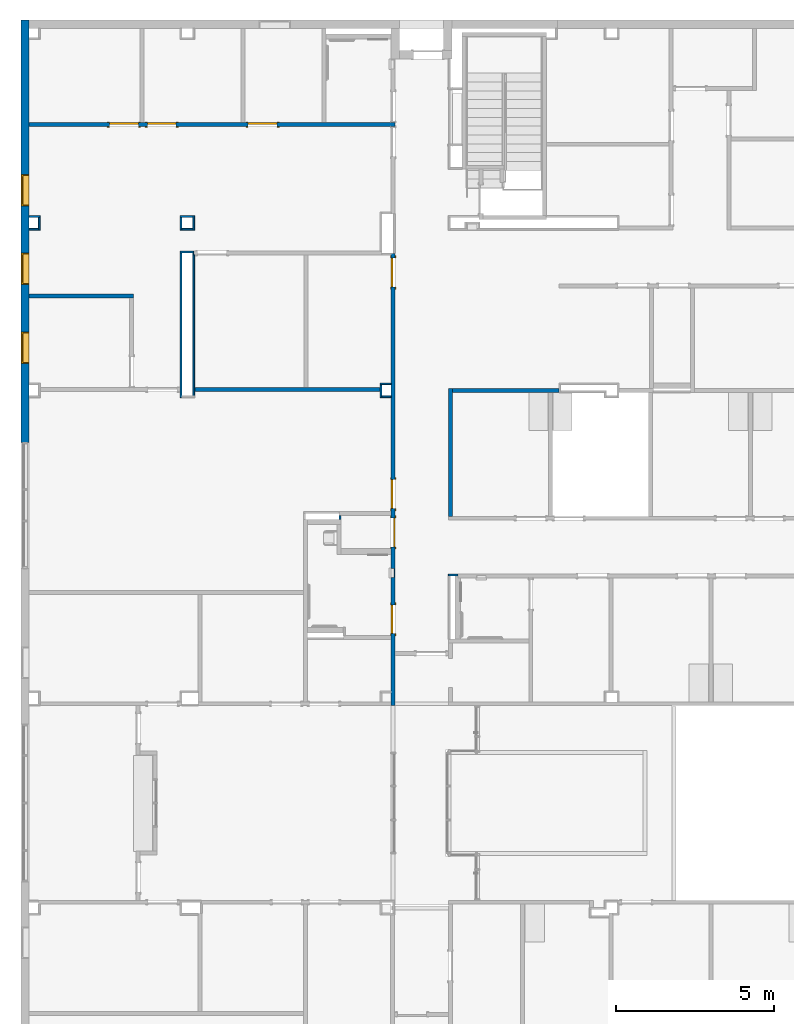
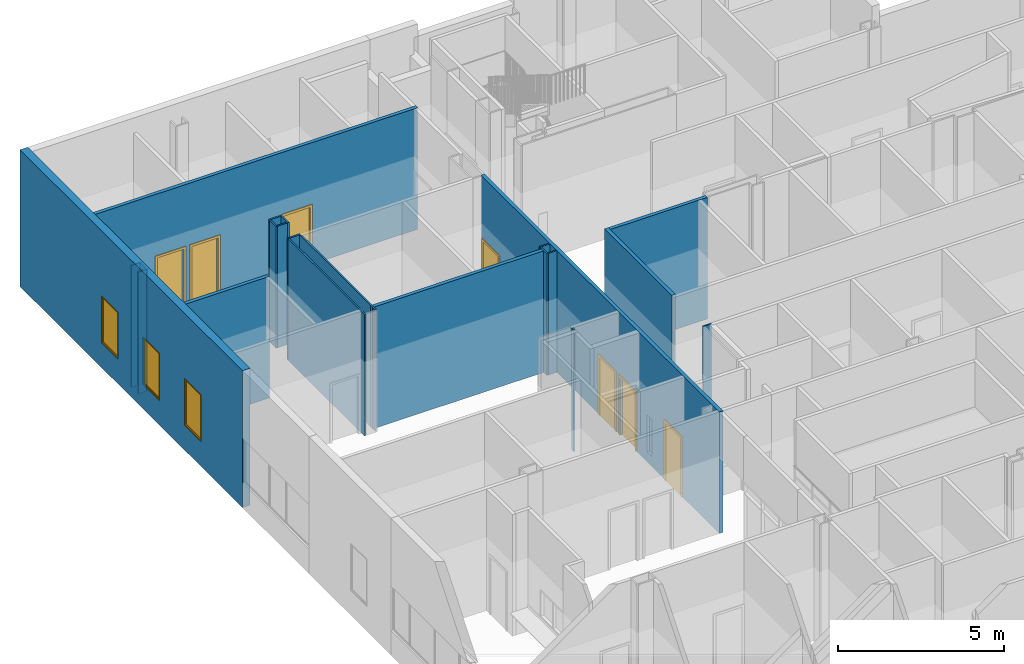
# One storey, part 31 of 87: 22 walls, 7 doors, 3 windows, 11 openings.
"""IFC2X3 building model written with IfcOpenShell, lengths in metres."""

from ifc_helpers import new_model, entity, si_unit, converted_unit, frame, frame_2d, origin, origin_2d_with_axis, place, context, project, spatial, polyline, rectangle, outline, extrude, source, transform, mapped, material, layer, layer_set, layer_usage, type_object, type_shapes, element, fill, save


model = new_model("IFC2X3")

# Units and contexts
model_context = context("Model", 3, precision=1e-09, world=origin())
plan_context = context("Plan", 3, precision=1e-09, world=origin())
ifc_project = project(units=[si_unit("LENGTHUNIT", "METRE"), si_unit("AREAUNIT", "SQUARE_METRE"), si_unit("VOLUMEUNIT", "CUBIC_METRE"), converted_unit("PLANEANGLEUNIT", "DEGREE", entity("IfcRatioMeasure", 0.01745329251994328), si_unit("PLANEANGLEUNIT", "RADIAN"), dimensions=[0, 0, 0, 0, 0, 0, 0]), si_unit("TIMEUNIT", "SECOND")], contexts=[model_context, plan_context])

# Site, building, storey
site_placement = place(None, origin())
site = spatial("IfcSite", under=ifc_project, at=site_placement, Name="Default", CompositionType="ELEMENT")
building_placement = place(site_placement, origin())
building = spatial("IfcBuilding", under=site, at=building_placement, CompositionType="ELEMENT")
storey_placement = place(building_placement, origin())
storey = spatial("IfcBuildingStorey", under=building, at=storey_placement, Name="First Floor", CompositionType="ELEMENT", Elevation=-3.531500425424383e-13)

# Wall, openings, doors
ifc_material_1 = material(Name="Plasterboard")
ifc_layer_1 = layer(ifc_material_1, 0.016)
ifc_material_2 = material(Name="Metal - Stud Layer")
ifc_layer_2 = layer(ifc_material_2, 0.092)
ifc_layer_3 = layer(ifc_material_1, 0.016)
ifc_layer_set_1 = layer_set([ifc_layer_1, ifc_layer_2, ifc_layer_3], Name="Basic Wall:Interior - Partition (92mm Stud)")
ifc_layer_usage_1 = layer_usage(ifc_layer_set_1, "AXIS2", "NEGATIVE", 0.062)
wall_1_placement = place(storey_placement, frame((-52.01300000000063, 53.20199999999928, 0.0)))
wall_1 = element("IfcWallStandardCase", 1, at=wall_1_placement, inside=storey, material=ifc_layer_usage_1, Name="Basic Wall:Interior - Partition (92mm Stud)", ObjectType="Basic Wall:Interior - Partition (92mm Stud)", context=model_context, shape_type="SweptSolid", body=[
    extrude(rectangle(XDim=11.60000000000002, YDim=0.1240000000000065, at=frame_2d((5.800000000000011, 0.0), x_axis=(-1.0, 0.0))), origin(), (0.0, 0.0, 1.0), 4.46800000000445),
])
opening_1_placement = place(wall_1_placement, frame((2.543999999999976, -0.06200000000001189, 0.0)))
opening_1 = element("IfcOpeningElement", 2, at=opening_1_placement, cuts=wall_1, Name="M_Single-Flush:0915 x 2134mm:0915 x 2134mm:1", ObjectType="Opening", context=model_context, shape_type="SweptSolid", body=[
    extrude(rectangle(XDim=0.9149999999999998, YDim=2.134, at=frame_2d((1.067, 0.4575), x_axis=(0.0, 1.0))), frame((0.0, 0.0, 0.0), z_axis=(0.0, 1.0, 0.0), x_axis=(0.0, 0.0, 1.0)), (0.0, 0.0, 1.0), 0.124),
])
opening_2_placement = place(wall_1_placement, frame((3.742999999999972, -0.06200000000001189, 0.0)))
opening_2 = element("IfcOpeningElement", 3, at=opening_2_placement, cuts=wall_1, Name="M_Single-Flush:0915 x 2134mm:0915 x 2134mm:1", ObjectType="Opening", context=model_context, shape_type="SweptSolid", body=[
    extrude(rectangle(XDim=0.9149999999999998, YDim=2.134, at=frame_2d((1.067, 0.4574999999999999), x_axis=(0.0, -1.0))), frame((0.0, 0.0, 0.0), z_axis=(0.0, 1.0, 0.0), x_axis=(0.0, 0.0, 1.0)), (0.0, 0.0, 1.0), 0.124),
])
opening_3_placement = place(wall_1_placement, frame((6.942999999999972, -0.06200000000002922, 0.0)))
opening_3 = element("IfcOpeningElement", 4, at=opening_3_placement, cuts=wall_1, Name="M_Single-Flush:0915 x 2134mm:0915 x 2134mm:1", ObjectType="Opening", context=model_context, shape_type="SweptSolid", body=[
    extrude(rectangle(XDim=0.9149999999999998, YDim=2.134, at=frame_2d((1.067, 0.4574999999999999), x_axis=(0.0, -1.0))), frame((0.0, 0.0, 0.0), z_axis=(0.0, 1.0, 0.0), x_axis=(0.0, 0.0, 1.0)), (0.0, 0.0, 1.0), 0.124),
])
door_style_1 = type_object("IfcDoorStyle", Name="0915 x 2134mm", ConstructionType="NOTDEFINED", OperationType="SINGLE_SWING_RIGHT", ParameterTakesPrecedence=False, Sizeable=False)
shared_shape_1 = source(origin(), model_context, "Body", "SweptSolid", [
    extrude(outline(polyline([(-0.5335, -1.123999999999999), (0.5334999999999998, -1.123999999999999), (0.5334999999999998, 1.086), (0.4574999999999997, 1.086), (0.4574999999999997, -1.048000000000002), (-0.4574999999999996, -1.048000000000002), (-0.4574999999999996, 1.086), (-0.5335, 1.086), (-0.5335, -1.123999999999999)])), frame((0.4575000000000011, 0.1239999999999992, 1.086), z_axis=(0.0, 1.0, 0.0), x_axis=(1.0, 0.0, 0.0)), (0.0, 0.0, 1.0), 0.02499999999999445),
    extrude(outline(polyline([(-1.123999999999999, -0.5334999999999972), (1.085999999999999, -0.5334999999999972), (1.085999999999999, -0.4575000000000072), (-1.048, -0.4575000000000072), (-1.048, 0.4575000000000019), (1.085999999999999, 0.4575000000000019), (1.085999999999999, 0.5335000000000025), (-1.123999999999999, 0.5335000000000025), (-1.123999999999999, -0.5334999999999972)])), frame((0.4575000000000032, -0.02500000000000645, 1.085999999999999), z_axis=(0.0, 1.0, 0.0), x_axis=(0.0, 0.0, -1.0)), (0.0, 0.0, 1.0), 0.02500000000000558),
    extrude(rectangle(XDim=0.051, YDim=0.9149999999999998, at=origin_2d_with_axis()), frame((0.4575000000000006, 0.09849999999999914, 0.0), z_axis=(0.0, 0.0, 1.0), x_axis=(0.0, 1.0, 0.0)), (0.0, 0.0, 1.0), 2.133999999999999),
])
type_shapes(door_style_1, [shared_shape_1])
door_1_placement = place(opening_1_placement, origin())
door_1 = element("IfcDoor", 5, at=door_1_placement, inside=storey, type_object=door_style_1, Name="M_Single-Flush:0915 x 2134mm:0915 x 2134mm", ObjectType="0915 x 2134mm", OverallHeight=2.134, OverallWidth=0.9149999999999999, context=model_context, shape_type="MappedRepresentation", body=[
    mapped(shared_shape_1, transform((0.0, 0.0, 0.0), scale=1.0)),
])
fill(opening_1, door_1)
door_style_2 = type_object("IfcDoorStyle", Name="0915 x 2134mm", ConstructionType="NOTDEFINED", OperationType="SINGLE_SWING_LEFT", ParameterTakesPrecedence=False, Sizeable=False)
shared_shape_2 = source(origin(), model_context, "Body", "SweptSolid", [
    extrude(outline(polyline([(-0.5335, -1.123999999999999), (0.5334999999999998, -1.123999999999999), (0.5334999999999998, 1.086), (0.4574999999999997, 1.086), (0.4574999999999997, -1.048000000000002), (-0.4574999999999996, -1.048000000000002), (-0.4574999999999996, 1.086), (-0.5335, 1.086), (-0.5335, -1.123999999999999)])), frame((0.4575000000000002, 0.1489999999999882, 1.086), z_axis=(0.0, -1.0, 0.0), x_axis=(-1.0, 0.0, 0.0)), (0.0, 0.0, 1.0), 0.02499999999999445),
    extrude(outline(polyline([(-1.123999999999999, -0.5334999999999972), (1.085999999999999, -0.5334999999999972), (1.085999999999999, -0.4575000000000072), (-1.048, -0.4575000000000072), (-1.048, 0.4575000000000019), (1.085999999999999, 0.4575000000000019), (1.085999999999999, 0.5335000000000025), (-1.123999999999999, 0.5335000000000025), (-1.123999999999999, -0.5334999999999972)])), frame((0.4574999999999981, 0.0, 1.085999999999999), z_axis=(0.0, -1.0, 0.0), x_axis=(0.0, 0.0, -1.0)), (0.0, 0.0, 1.0), 0.02500000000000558),
    extrude(rectangle(XDim=0.9149999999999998, YDim=0.051, at=origin_2d_with_axis()), frame((0.4575000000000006, 0.09849999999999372, 0.0)), (0.0, 0.0, 1.0), 2.133999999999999),
])
type_shapes(door_style_2, [shared_shape_2])
door_2_placement = place(opening_2_placement, origin())
door_2 = element("IfcDoor", 6, at=door_2_placement, inside=storey, type_object=door_style_2, Name="M_Single-Flush:0915 x 2134mm:0915 x 2134mm", ObjectType="0915 x 2134mm", OverallHeight=2.134, OverallWidth=0.9149999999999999, context=model_context, shape_type="MappedRepresentation", body=[
    mapped(shared_shape_2, transform((0.0, 0.0, 0.0), scale=1.0)),
])
fill(opening_2, door_2)
door_3_placement = place(opening_3_placement, origin())
door_3 = element("IfcDoor", 7, at=door_3_placement, inside=storey, type_object=door_style_2, Name="M_Single-Flush:0915 x 2134mm:0915 x 2134mm", ObjectType="0915 x 2134mm", OverallHeight=2.134, OverallWidth=0.9149999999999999, context=model_context, shape_type="MappedRepresentation", body=[
    mapped(shared_shape_2, transform((0.0, 0.0, 0.0), scale=1.0)),
])
fill(opening_3, door_3)

# Walls
ifc_layer_usage_2 = layer_usage(ifc_layer_set_1, "AXIS2", "NEGATIVE", 0.062)
wall_2_placement = place(storey_placement, frame((-52.01300000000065, 47.76799999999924, 0.0)))
element("IfcWallStandardCase", 8, at=wall_2_placement, inside=storey, material=ifc_layer_usage_2, Name="Basic Wall:Interior - Partition (92mm Stud)", ObjectType="Basic Wall:Interior - Partition (92mm Stud)", context=model_context, shape_type="SweptSolid", body=[
    extrude(rectangle(XDim=3.30800000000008, YDim=0.1240000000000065, at=frame_2d((1.65400000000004, 0.0), x_axis=(-1.0, 0.0))), origin(), (0.0, 0.0, 1.0), 4.46800000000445),
])
ifc_layer_usage_3 = layer_usage(ifc_layer_set_1, "AXIS2", "NEGATIVE", 0.062)
wall_3_placement = place(storey_placement, frame((-40.89000000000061, 44.80199999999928, 0.0), z_axis=(0.0, 0.0, 1.0), x_axis=(-1.0, 0.0, 0.0)))
element("IfcWallStandardCase", 9, at=wall_3_placement, inside=storey, material=ifc_layer_usage_3, Name="Basic Wall:Interior - Partition (92mm Stud)", ObjectType="Basic Wall:Interior - Partition (92mm Stud)", context=model_context, shape_type="SweptSolid", body=[
    extrude(rectangle(XDim=5.941999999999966, YDim=0.1240000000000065, at=frame_2d((2.970999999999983, 0.0), x_axis=(-1.0, 0.0))), origin(), (0.0, 0.0, 1.0), 4.46800000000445),
])
ifc_layer_usage_4 = layer_usage(ifc_layer_set_1, "AXIS2", "NEGATIVE", 0.062)
wall_4_placement = place(storey_placement, frame((-38.65800000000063, 40.78399999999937, 0.0), z_axis=(0.0, 0.0, 1.0), x_axis=(0.0, 1.0, 0.0)))
element("IfcWallStandardCase", 10, at=wall_4_placement, inside=storey, material=ifc_layer_usage_4, Name="Basic Wall:Interior - Partition (92mm Stud)", ObjectType="Basic Wall:Interior - Partition (92mm Stud)", context=model_context, shape_type="SweptSolid", body=[
    extrude(rectangle(XDim=4.045999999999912, YDim=0.1239999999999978, at=frame_2d((2.022999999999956, 0.0), x_axis=(-1.0, 0.0))), origin(), (0.0, 0.0, 1.0), 4.46800000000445),
])
ifc_layer_usage_5 = layer_usage(ifc_layer_set_1, "AXIS2", "NEGATIVE", 0.062)
wall_5_placement = place(storey_placement, frame((-38.59600000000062, 44.76799999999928, 0.0)))
element("IfcWallStandardCase", 11, at=wall_5_placement, inside=storey, material=ifc_layer_usage_5, Name="Basic Wall:Interior - Partition (92mm Stud)", ObjectType="Basic Wall:Interior - Partition (92mm Stud)", context=model_context, shape_type="SweptSolid", body=[
    extrude(rectangle(XDim=3.380999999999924, YDim=0.1240000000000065, at=frame_2d((1.690499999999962, 0.0), x_axis=(-1.0, 0.0))), origin(), (0.0, 0.0, 1.0), 4.46800000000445),
])

# Wall, openings, windows
ifc_material_3 = material(Name="Insulation - Insulated Panel")
ifc_layer_4 = layer(ifc_material_3, 0.042)
ifc_material_4 = material(Name="Metal - Firring")
ifc_layer_5 = layer(ifc_material_4, 0.038)
ifc_material_5 = material(Name="Wood - Sheathing - plywood")
ifc_layer_6 = layer(ifc_material_5, 0.019)
ifc_layer_7 = layer(ifc_material_2, 0.152)
ifc_layer_8 = layer(ifc_material_1, 0.016)
ifc_layer_set_2 = layer_set([ifc_layer_4, ifc_layer_5, ifc_layer_6, ifc_layer_7, ifc_layer_8], Name="Basic Wall:Exterior - Insul Panel on Mtl. Stud")
ifc_layer_usage_6 = layer_usage(ifc_layer_set_2, "AXIS2", "NEGATIVE", 0.1335)
wall_6_placement = place(storey_placement, frame((-52.14650000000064, 43.12995228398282, 0.0), z_axis=(0.0, 0.0, 1.0), x_axis=(0.0, 1.0, 0.0)))
wall_6 = element("IfcWallStandardCase", 12, at=wall_6_placement, inside=storey, material=ifc_layer_usage_6, Name="Basic Wall:Exterior - Insul Panel on Mtl. Stud", ObjectType="Basic Wall:Exterior - Insul Panel on Mtl. Stud", context=model_context, shape_type="SweptSolid", body=[
    extrude(rectangle(XDim=13.39004771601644, YDim=0.2670000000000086, at=frame_2d((6.695023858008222, 0.0), x_axis=(-1.0, 0.0))), origin(), (0.0, 0.0, 1.0), 5.02700000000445),
])
opening_4_placement = place(wall_6_placement, frame((2.500047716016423, -0.1334999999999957, 0.9049999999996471)))
opening_4 = element("IfcOpeningElement", 13, at=opening_4_placement, cuts=wall_6, Name=":1", ObjectType="Opening", context=model_context, shape_type="SweptSolid", body=[
    extrude(rectangle(XDim=1.734999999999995, YDim=0.9999999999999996, at=frame_2d((0.8674999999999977, 0.4999999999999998), x_axis=(1.0, 0.0))), frame((0.0, 0.0, 0.0), z_axis=(0.0, 1.0, 0.0), x_axis=(0.0, 0.0, 1.0)), (0.0, 0.0, 1.0), 0.267),
])
opening_5_placement = place(wall_6_placement, frame((5.000047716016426, -0.1335000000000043, 0.9049999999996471)))
opening_5 = element("IfcOpeningElement", 14, at=opening_5_placement, cuts=wall_6, Name=":1", ObjectType="Opening", context=model_context, shape_type="SweptSolid", body=[
    extrude(rectangle(XDim=1.734999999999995, YDim=0.9999999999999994, at=frame_2d((0.8674999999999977, 0.5000000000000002), x_axis=(1.0, 0.0))), frame((0.0, 0.0, 0.0), z_axis=(0.0, 1.0, 0.0), x_axis=(0.0, 0.0, 1.0)), (0.0, 0.0, 1.0), 0.267),
])
opening_6_placement = place(wall_6_placement, frame((7.490047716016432, -0.1335000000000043, 0.9049999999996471)))
opening_6 = element("IfcOpeningElement", 15, at=opening_6_placement, cuts=wall_6, Name=":1", ObjectType="Opening", context=model_context, shape_type="SweptSolid", body=[
    extrude(rectangle(XDim=1.734999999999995, YDim=0.9999999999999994, at=frame_2d((0.8674999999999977, 0.5000000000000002), x_axis=(1.0, 0.0))), frame((0.0, 0.0, 0.0), z_axis=(0.0, 1.0, 0.0), x_axis=(0.0, 0.0, 1.0)), (0.0, 0.0, 1.0), 0.267),
])
window_style = type_object("IfcWindowStyle", Name="1735 x 1000mm", ConstructionType="NOTDEFINED", OperationType="NOTDEFINED", ParameterTakesPrecedence=False, Sizeable=False)
shared_shape_3 = source(origin(), model_context, "Body", "SweptSolid", [
    extrude(rectangle(XDim=0.012, YDim=0.873999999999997, at=origin_2d_with_axis()), frame((0.5000000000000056, 0.2259999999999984, 0.06299999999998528), z_axis=(0.0, 0.0, 1.0), x_axis=(0.0, -1.0, 0.0)), (0.0, 0.0, 1.0), 1.609000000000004),
    extrude(outline(polyline([(-0.4809999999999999, -0.8485000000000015), (0.4809999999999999, -0.8485000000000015), (0.4809999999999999, 0.8485000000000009), (-0.4809999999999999, 0.8485000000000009), (-0.4809999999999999, -0.8485000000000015)]), holes=[polyline([(-0.4369999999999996, -0.8045000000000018), (-0.4369999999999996, 0.8045000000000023), (0.4369999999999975, 0.8045000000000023), (0.4369999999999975, -0.8045000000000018), (-0.4369999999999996, -0.8045000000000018)])]), frame((0.5000000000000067, 0.203999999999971, 0.8674999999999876), z_axis=(0.0, 1.0, 0.0), x_axis=(1.0, 0.0, 0.0)), (0.0, 0.0, 1.0), 0.04400000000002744),
    extrude(outline(polyline([(-0.4999999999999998, -0.8674999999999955), (0.4999999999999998, -0.8674999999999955), (0.4999999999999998, 0.8674999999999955), (-0.4999999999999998, 0.8674999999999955), (-0.4999999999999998, -0.8674999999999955)]), holes=[polyline([(-0.4810000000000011, -0.8484999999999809), (-0.4810000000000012, 0.8485000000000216), (0.4809999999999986, 0.8485000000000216), (0.4809999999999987, -0.8484999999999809), (-0.4810000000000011, -0.8484999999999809)])]), frame((0.500000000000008, 0.203999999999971, 0.8675000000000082), z_axis=(0.0, 1.0, 0.0), x_axis=(1.0, 0.0, 0.0)), (0.0, 0.0, 1.0), 0.06300000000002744),
    extrude(outline(polyline([(-0.5000000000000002, -0.867499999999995), (0.5000000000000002, -0.867499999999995), (0.5000000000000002, 0.867499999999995), (-0.5000000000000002, 0.867499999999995), (-0.5000000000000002, -0.867499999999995)]), holes=[polyline([(-0.4679999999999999, -0.8354999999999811), (-0.4679999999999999, 0.8355000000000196), (0.4680000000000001, 0.8355000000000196), (0.4680000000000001, -0.8354999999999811), (-0.4679999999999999, -0.8354999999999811)])]), frame((0.5000000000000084, 0.0, 0.8675000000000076), z_axis=(0.0, 1.0, 0.0), x_axis=(1.0, 0.0, 0.0)), (0.0, 0.0, 1.0), 0.2039999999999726),
])
type_shapes(window_style, [shared_shape_3])
window_1_placement = place(opening_4_placement, origin())
window_1 = element("IfcWindow", 16, at=window_1_placement, inside=storey, type_object=window_style, Name="M_Fixed:1735 x 1000mm:1735 x 1000mm", ObjectType="1735 x 1000mm", OverallHeight=1.734999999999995, OverallWidth=0.9999999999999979, context=model_context, shape_type="MappedRepresentation", body=[
    mapped(shared_shape_3, transform((0.0, 0.0, 0.0), scale=1.0)),
])
fill(opening_4, window_1)
window_2_placement = place(opening_5_placement, origin())
window_2 = element("IfcWindow", 17, at=window_2_placement, inside=storey, type_object=window_style, Name="M_Fixed:1735 x 1000mm:1735 x 1000mm", ObjectType="1735 x 1000mm", OverallHeight=1.734999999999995, OverallWidth=0.9999999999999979, context=model_context, shape_type="MappedRepresentation", body=[
    mapped(shared_shape_3, transform((0.0, 0.0, 0.0), scale=1.0)),
])
fill(opening_5, window_2)
window_3_placement = place(opening_6_placement, origin())
window_3 = element("IfcWindow", 18, at=window_3_placement, inside=storey, type_object=window_style, Name="M_Fixed:1735 x 1000mm:1735 x 1000mm", ObjectType="1735 x 1000mm", OverallHeight=1.734999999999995, OverallWidth=0.9999999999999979, context=model_context, shape_type="MappedRepresentation", body=[
    mapped(shared_shape_3, transform((0.0, 0.0, 0.0), scale=1.0)),
])
fill(opening_6, window_3)

# Walls
ifc_layer_9 = layer(ifc_material_2, 0.038)
ifc_layer_10 = layer(ifc_material_1, 0.016)
ifc_layer_set_3 = layer_set([ifc_layer_9, ifc_layer_10], Name="Basic Wall:Interior - Furring (38 mm Stud)")
ifc_layer_usage_7 = layer_usage(ifc_layer_set_3, "AXIS2", "NEGATIVE", 0.027)
wall_7_placement = place(storey_placement, frame((-42.15780000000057, 40.69139999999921, 0.0), z_axis=(0.0, 0.0, 1.0), x_axis=(0.0, 1.0, 0.0)))
element("IfcWallStandardCase", 19, at=wall_7_placement, inside=storey, material=ifc_layer_usage_7, Name="Basic Wall:Interior - Furring (38 mm Stud)", ObjectType="Basic Wall:Interior - Furring (38 mm Stud)", context=model_context, shape_type="SweptSolid", body=[
    extrude(rectangle(XDim=0.1145999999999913, YDim=0.05400000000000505, at=frame_2d((0.05729999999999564, 0.0), x_axis=(-1.0, 0.0))), origin(), (0.0, 0.0, 1.0), 4.46800000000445),
])
ifc_layer_usage_8 = layer_usage(ifc_layer_set_3, "AXIS2", "NEGATIVE", 0.027)
wall_8_placement = place(storey_placement, frame((-38.42400000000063, 38.92299999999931, 0.0), z_axis=(0.0, 0.0, 1.0), x_axis=(-1.0, 0.0, 0.0)))
element("IfcWallStandardCase", 20, at=wall_8_placement, inside=storey, material=ifc_layer_usage_8, Name="Basic Wall:Interior - Furring (38 mm Stud)", ObjectType="Basic Wall:Interior - Furring (38 mm Stud)", context=model_context, shape_type="SweptSolid", body=[
    extrude(rectangle(XDim=0.296000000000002, YDim=0.05399999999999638, at=frame_2d((0.148000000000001, 0.0), x_axis=(-1.0, 0.0))), origin(), (0.0, 0.0, 1.0), 4.46800000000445),
])
ifc_layer_usage_9 = layer_usage(ifc_layer_set_3, "AXIS2", "NEGATIVE", 0.027)
wall_9_placement = place(storey_placement, frame((-40.53700000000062, 44.98299999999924, 0.0), z_axis=(0.0, 0.0, 1.0), x_axis=(-1.0, 0.0, 0.0)))
element("IfcWallStandardCase", 21, at=wall_9_placement, inside=storey, material=ifc_layer_usage_9, Name="Basic Wall:Interior - Furring (38 mm Stud)", ObjectType="Basic Wall:Interior - Furring (38 mm Stud)", context=model_context, shape_type="SweptSolid", body=[
    extrude(rectangle(XDim=0.352999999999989, YDim=0.05400000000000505, at=frame_2d((0.1764999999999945, 0.0), x_axis=(-1.0, 0.0))), origin(), (0.0, 0.0, 1.0), 4.46800000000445),
])
ifc_layer_usage_10 = layer_usage(ifc_layer_set_3, "AXIS2", "NEGATIVE", 0.027)
wall_10_placement = place(storey_placement, frame((-40.86300000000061, 44.95599999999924, 0.0), z_axis=(0.0, 0.0, 1.0), x_axis=(0.0, -1.0, 0.0)))
element("IfcWallStandardCase", 22, at=wall_10_placement, inside=storey, material=ifc_layer_usage_10, Name="Basic Wall:Interior - Furring (38 mm Stud)", ObjectType="Basic Wall:Interior - Furring (38 mm Stud)", context=model_context, shape_type="SweptSolid", body=[
    extrude(rectangle(XDim=0.4059999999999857, YDim=0.05400000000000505, at=frame_2d((0.2029999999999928, 0.0), x_axis=(-1.0, 0.0))), origin(), (0.0, 0.0, 1.0), 4.46800000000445),
])
ifc_layer_usage_11 = layer_usage(ifc_layer_set_3, "AXIS2", "NEGATIVE", 0.027)
wall_11_placement = place(storey_placement, frame((-40.83600000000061, 44.57699999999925, 0.0)))
element("IfcWallStandardCase", 23, at=wall_11_placement, inside=storey, material=ifc_layer_usage_11, Name="Basic Wall:Interior - Furring (38 mm Stud)", ObjectType="Basic Wall:Interior - Furring (38 mm Stud)", context=model_context, shape_type="SweptSolid", body=[
    extrude(rectangle(XDim=0.2989999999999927, YDim=0.05400000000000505, at=frame_2d((0.1494999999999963, 0.0), x_axis=(-1.0, 0.0))), origin(), (0.0, 0.0, 1.0), 4.46800000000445),
])
ifc_layer_usage_12 = layer_usage(ifc_layer_set_3, "AXIS2", "NEGATIVE", 0.027)
wall_12_placement = place(storey_placement, frame((-46.79700000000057, 49.85999999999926, 0.0), z_axis=(0.0, 0.0, 1.0), x_axis=(0.0, 1.0, 0.0)))
element("IfcWallStandardCase", 24, at=wall_12_placement, inside=storey, material=ifc_layer_usage_12, Name="Basic Wall:Interior - Furring (38 mm Stud)", ObjectType="Basic Wall:Interior - Furring (38 mm Stud)", context=model_context, shape_type="SweptSolid", body=[
    extrude(rectangle(XDim=0.459999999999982, YDim=0.05400000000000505, at=frame_2d((0.229999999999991, 0.0), x_axis=(-1.0, 0.0))), origin(), (0.0, 0.0, 1.0), 4.46800000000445),
])
ifc_layer_usage_13 = layer_usage(ifc_layer_set_3, "AXIS2", "NEGATIVE", 0.027)
wall_13_placement = place(storey_placement, frame((-46.82400000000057, 50.29299999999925, 0.0), z_axis=(0.0, 0.0, 1.0), x_axis=(-1.0, 0.0, 0.0)))
element("IfcWallStandardCase", 25, at=wall_13_placement, inside=storey, material=ifc_layer_usage_13, Name="Basic Wall:Interior - Furring (38 mm Stud)", ObjectType="Basic Wall:Interior - Furring (38 mm Stud)", context=model_context, shape_type="SweptSolid", body=[
    extrude(rectangle(XDim=0.4059999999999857, YDim=0.05400000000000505, at=frame_2d((0.2029999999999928, 0.0), x_axis=(-1.0, 0.0))), origin(), (0.0, 0.0, 1.0), 4.46800000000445),
])
ifc_layer_usage_14 = layer_usage(ifc_layer_set_3, "AXIS2", "NEGATIVE", 0.027)
wall_14_placement = place(storey_placement, frame((-47.20300000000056, 50.26599999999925, 0.0), z_axis=(0.0, 0.0, 1.0), x_axis=(0.0, -1.0, 0.0)))
element("IfcWallStandardCase", 26, at=wall_14_placement, inside=storey, material=ifc_layer_usage_14, Name="Basic Wall:Interior - Furring (38 mm Stud)", ObjectType="Basic Wall:Interior - Furring (38 mm Stud)", context=model_context, shape_type="SweptSolid", body=[
    extrude(rectangle(XDim=0.4059999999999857, YDim=0.05400000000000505, at=frame_2d((0.2029999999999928, 0.0), x_axis=(-1.0, 0.0))), origin(), (0.0, 0.0, 1.0), 4.46800000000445),
])
ifc_layer_usage_15 = layer_usage(ifc_layer_set_3, "AXIS2", "NEGATIVE", 0.027)
wall_15_placement = place(storey_placement, frame((-47.17600000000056, 49.88699999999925, 0.0)))
element("IfcWallStandardCase", 27, at=wall_15_placement, inside=storey, material=ifc_layer_usage_15, Name="Basic Wall:Interior - Furring (38 mm Stud)", ObjectType="Basic Wall:Interior - Furring (38 mm Stud)", context=model_context, shape_type="SweptSolid", body=[
    extrude(rectangle(XDim=0.3519999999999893, YDim=0.05400000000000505, at=frame_2d((0.1759999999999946, 0.0), x_axis=(-1.0, 0.0))), origin(), (0.0, 0.0, 1.0), 4.46800000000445),
])
ifc_layer_usage_16 = layer_usage(ifc_layer_set_3, "AXIS2", "NEGATIVE", 0.027)
wall_16_placement = place(storey_placement, frame((-46.79700000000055, 49.16699999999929, 0.0), z_axis=(0.0, 0.0, 1.0), x_axis=(-1.0, 0.0, 0.0)))
element("IfcWallStandardCase", 28, at=wall_16_placement, inside=storey, material=ifc_layer_usage_16, Name="Basic Wall:Interior - Furring (38 mm Stud)", ObjectType="Basic Wall:Interior - Furring (38 mm Stud)", context=model_context, shape_type="SweptSolid", body=[
    extrude(rectangle(XDim=0.4329999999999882, YDim=0.05400000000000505, at=frame_2d((0.2164999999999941, 0.0), x_axis=(-1.0, 0.0))), origin(), (0.0, 0.0, 1.0), 4.46800000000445),
])
ifc_layer_usage_17 = layer_usage(ifc_layer_set_3, "AXIS2", "NEGATIVE", 0.027)
wall_17_placement = place(storey_placement, frame((-47.20300000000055, 49.13999999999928, 0.0), z_axis=(0.0, 0.0, 1.0), x_axis=(0.0, -1.0, 0.0)))
element("IfcWallStandardCase", 29, at=wall_17_placement, inside=storey, material=ifc_layer_usage_17, Name="Basic Wall:Interior - Furring (38 mm Stud)", ObjectType="Basic Wall:Interior - Furring (38 mm Stud)", context=model_context, shape_type="SweptSolid", body=[
    extrude(rectangle(XDim=4.590000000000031, YDim=0.05400000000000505, at=frame_2d((2.295000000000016, 0.0), x_axis=(-1.0, 0.0))), origin(), (0.0, 0.0, 1.0), 4.46800000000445),
])
ifc_layer_usage_18 = layer_usage(ifc_layer_set_3, "AXIS2", "NEGATIVE", 0.027)
wall_18_placement = place(storey_placement, frame((-46.79700000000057, 44.60399999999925, 0.0), z_axis=(0.0, 0.0, 1.0), x_axis=(0.0, 1.0, 0.0)))
element("IfcWallStandardCase", 30, at=wall_18_placement, inside=storey, material=ifc_layer_usage_18, Name="Basic Wall:Interior - Furring (38 mm Stud)", ObjectType="Basic Wall:Interior - Furring (38 mm Stud)", context=model_context, shape_type="SweptSolid", body=[
    extrude(outline(polyline([(4.466000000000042, -0.02699999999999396), (4.466000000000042, 0.0), (4.536000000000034, 0.0), (4.536000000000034, 0.02700000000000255), (0.0, 0.02700000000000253), (0.0, -0.02699999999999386), (4.466000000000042, -0.02699999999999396)])), origin(), (0.0, 0.0, 1.0), 4.468000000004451),
])
ifc_layer_usage_19 = layer_usage(ifc_layer_set_3, "AXIS2", "POSITIVE", -0.027)
wall_19_placement = place(storey_placement, frame((-52.01300000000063, 50.29299999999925, 0.0)))
element("IfcWallStandardCase", 31, at=wall_19_placement, inside=storey, material=ifc_layer_usage_19, Name="Basic Wall:Interior - Furring (38 mm Stud)", ObjectType="Basic Wall:Interior - Furring (38 mm Stud)", context=model_context, shape_type="SweptSolid", body=[
    extrude(rectangle(XDim=0.3430000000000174, YDim=0.05400000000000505, at=frame_2d((0.1715000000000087, 0.0), x_axis=(-1.0, 0.0))), origin(), (0.0, 0.0, 1.0), 4.46800000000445),
])
ifc_layer_usage_20 = layer_usage(ifc_layer_set_3, "AXIS2", "POSITIVE", -0.027)
wall_20_placement = place(storey_placement, frame((-51.69700000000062, 50.26599999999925, 0.0), z_axis=(0.0, 0.0, 1.0), x_axis=(0.0, -1.0, 0.0)))
element("IfcWallStandardCase", 32, at=wall_20_placement, inside=storey, material=ifc_layer_usage_20, Name="Basic Wall:Interior - Furring (38 mm Stud)", ObjectType="Basic Wall:Interior - Furring (38 mm Stud)", context=model_context, shape_type="SweptSolid", body=[
    extrude(rectangle(XDim=0.406000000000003, YDim=0.05400000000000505, at=frame_2d((0.2030000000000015, 0.0), x_axis=(-1.0, 0.0))), origin(), (0.0, 0.0, 1.0), 4.46800000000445),
])
ifc_layer_usage_21 = layer_usage(ifc_layer_set_3, "AXIS2", "POSITIVE", -0.027)
wall_21_placement = place(storey_placement, frame((-51.72400000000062, 49.88699999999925, 0.0), z_axis=(0.0, 0.0, 1.0), x_axis=(-1.0, 0.0, 0.0)))
element("IfcWallStandardCase", 33, at=wall_21_placement, inside=storey, material=ifc_layer_usage_21, Name="Basic Wall:Interior - Furring (38 mm Stud)", ObjectType="Basic Wall:Interior - Furring (38 mm Stud)", context=model_context, shape_type="SweptSolid", body=[
    extrude(rectangle(XDim=0.2890000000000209, YDim=0.05400000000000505, at=frame_2d((0.1445000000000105, 0.0), x_axis=(-1.0, 0.0))), origin(), (0.0, 0.0, 1.0), 4.46800000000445),
])

# Wall, openings, doors
ifc_layer_usage_22 = layer_usage(ifc_layer_set_1, "AXIS2", "NEGATIVE", 0.062)
wall_22_placement = place(storey_placement, frame((-40.47500000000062, 49.12399999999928, 0.0), z_axis=(0.0, 0.0, 1.0), x_axis=(0.0, -1.0, 0.0)))
wall_22 = element("IfcWallStandardCase", 34, at=wall_22_placement, inside=storey, material=ifc_layer_usage_22, Name="Basic Wall:Interior - Partition (92mm Stud)", ObjectType="Basic Wall:Interior - Partition (92mm Stud)", context=model_context, shape_type="SweptSolid", body=[
    extrude(rectangle(XDim=14.34400000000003, YDim=0.1240000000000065, at=frame_2d((7.172000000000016, 0.0), x_axis=(-1.0, 0.0))), origin(), (0.0, 0.0, 1.0), 4.468000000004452),
])
opening_7_placement = place(wall_22_placement, origin())
element("IfcOpeningElement", 35, at=opening_7_placement, cuts=wall_22, ObjectType="Opening", context=model_context, shape_type="SweptSolid", body=[
    extrude(rectangle(XDim=1.362075, YDim=0.2984500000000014, at=origin_2d_with_axis()), frame((10.13570000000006, -0.1255000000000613, 1.041399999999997), z_axis=(0.0, 1.0, 0.0), x_axis=(0.0, 0.0, -1.0)), (0.0, 0.0, 1.0), 0.15240000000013),
])
opening_8_placement = place(wall_22_placement, frame((8.094000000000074, 0.06199999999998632, 0.0)))
opening_8 = element("IfcOpeningElement", 36, at=opening_8_placement, cuts=wall_22, Name=":1", ObjectType="Opening", context=model_context, shape_type="SweptSolid", body=[
    extrude(rectangle(XDim=0.9149999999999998, YDim=2.134, at=frame_2d((1.067, 0.4574999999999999), x_axis=(0.0, -1.0))), frame((0.0, 0.0, 0.0), z_axis=(0.0, -1.0, 0.0), x_axis=(0.0, 0.0, 1.0)), (0.0, 0.0, 1.0), 0.124),
])
opening_9_placement = place(wall_22_placement, frame((12.05999999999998, 0.06199999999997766, 0.0)))
opening_9 = element("IfcOpeningElement", 37, at=opening_9_placement, cuts=wall_22, Name=":1", ObjectType="Opening", context=model_context, shape_type="SweptSolid", body=[
    extrude(rectangle(XDim=0.9149999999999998, YDim=2.134, at=frame_2d((1.067, 0.4574999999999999), x_axis=(0.0, -1.0))), frame((0.0, 0.0, 0.0), z_axis=(0.0, -1.0, 0.0), x_axis=(0.0, 0.0, 1.0)), (0.0, 0.0, 1.0), 0.124),
])
opening_10_placement = place(wall_22_placement, frame((1.068999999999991, 0.06199999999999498, 0.0)))
opening_10 = element("IfcOpeningElement", 38, at=opening_10_placement, cuts=wall_22, Name=":1", ObjectType="Opening", context=model_context, shape_type="SweptSolid", body=[
    extrude(rectangle(XDim=0.9149999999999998, YDim=2.134, at=frame_2d((1.067, 0.4575), x_axis=(0.0, 1.0))), frame((0.0, 0.0, 0.0), z_axis=(0.0, -1.0, 0.0), x_axis=(0.0, 0.0, 1.0)), (0.0, 0.0, 1.0), 0.124),
])
opening_11_placement = place(wall_22_placement, frame((8.391600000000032, -0.06200000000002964, 0.0)))
opening_11 = element("IfcOpeningElement", 39, at=opening_11_placement, cuts=wall_22, Name=":1", ObjectType="Opening", context=model_context, shape_type="SweptSolid", body=[
    extrude(rectangle(XDim=0.9149999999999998, YDim=2.134, at=frame_2d((1.067, 0.4575), x_axis=(0.0, 1.0))), frame((0.0, 0.0, 0.0), z_axis=(0.0, 1.0, 0.0), x_axis=(0.0, 0.0, 1.0)), (0.0, 0.0, 1.0), 0.124),
])
door_4_placement = place(opening_10_placement, frame((0.0, 0.0, 0.0), z_axis=(0.0, 0.0, 1.0), x_axis=(-1.0, 0.0, 0.0)))
door_4 = element("IfcDoor", 40, at=door_4_placement, inside=storey, type_object=door_style_1, Name="M_Single-Flush:0915 x 2134mm:0915 x 2134mm", ObjectType="0915 x 2134mm", OverallHeight=2.134, OverallWidth=0.9149999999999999, context=model_context, shape_type="MappedRepresentation", body=[
    mapped(shared_shape_1, transform((0.0, 0.0, 0.0), scale=1.0)),
])
fill(opening_10, door_4)
door_5_placement = place(opening_11_placement, origin())
door_5 = element("IfcDoor", 41, at=door_5_placement, inside=storey, type_object=door_style_1, Name="M_Single-Flush:0915 x 2134mm:0915 x 2134mm", ObjectType="0915 x 2134mm", OverallHeight=2.134, OverallWidth=0.9149999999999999, context=model_context, shape_type="MappedRepresentation", body=[
    mapped(shared_shape_1, transform((0.0, 0.0, 0.0), scale=1.0)),
])
fill(opening_11, door_5)
door_6_placement = place(opening_8_placement, frame((0.0, 0.0, 0.0), z_axis=(0.0, 0.0, 1.0), x_axis=(-1.0, 0.0, 0.0)))
door_6 = element("IfcDoor", 42, at=door_6_placement, inside=storey, type_object=door_style_2, Name="M_Single-Flush:0915 x 2134mm:0915 x 2134mm", ObjectType="0915 x 2134mm", OverallHeight=2.134, OverallWidth=0.9149999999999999, context=model_context, shape_type="MappedRepresentation", body=[
    mapped(shared_shape_2, transform((0.0, 0.0, 0.0), scale=1.0)),
])
fill(opening_8, door_6)
door_7_placement = place(opening_9_placement, frame((0.0, 0.0, 0.0), z_axis=(0.0, 0.0, 1.0), x_axis=(-1.0, 0.0, 0.0)))
door_7 = element("IfcDoor", 43, at=door_7_placement, inside=storey, type_object=door_style_2, Name="M_Single-Flush:0915 x 2134mm:0915 x 2134mm", ObjectType="0915 x 2134mm", OverallHeight=2.134, OverallWidth=0.9149999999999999, context=model_context, shape_type="MappedRepresentation", body=[
    mapped(shared_shape_2, transform((0.0, 0.0, 0.0), scale=1.0)),
])
fill(opening_9, door_7)

save(model, "model.ifc")
